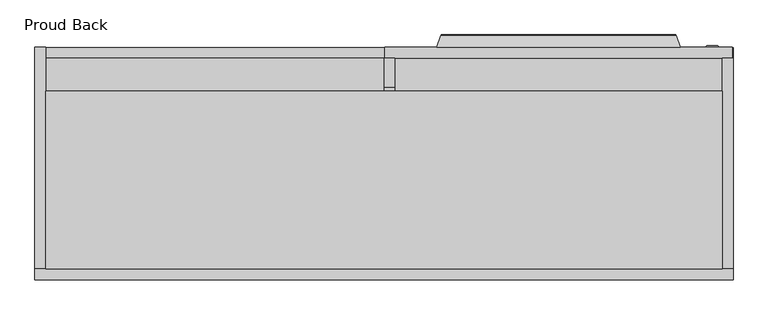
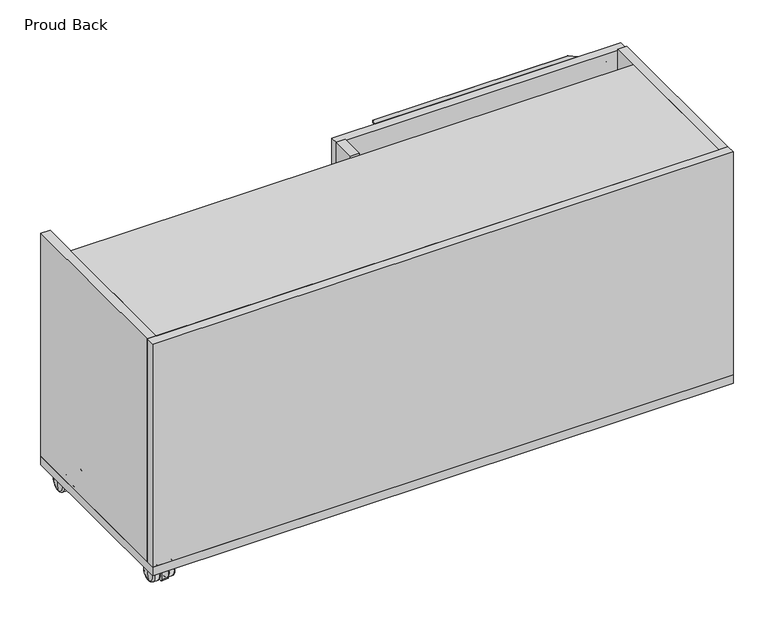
"""IFC4 building model written with IfcOpenShell, lengths in millimetres: furniture geometry, Haworth_BeHold_Modular_MobileCredenza : Proud Back."""

from ifc_helpers import new_model, si_unit, point, frame, frame_2d, origin, place, context, project, spatial, polyline, circle_curve, ellipse_curve, trimmed, segment, composite_curve, outline, extrude, source, transform, mapped, element, save
from ifc_brep_helpers import plane_surface, cylinder_surface, revolved_surface, advanced_brep


def proud_back_a2f7bcec(model_context):
    return source(origin(), model_context, "Body", "SolidModel", [
        advanced_brep(
        [(-750.3713166, 461.8252991, 2.8741812), (-751.97128, 461.8252991, 18.500001), (-750.3713166, 461.8252991, 34.1258208), (-746.8682448, 461.8252991, 1.5e-06), (-746.8682448, 461.8252991, 37.0000005), (-736.6629121, 461.8252991, 1.5e-06), (-736.6629121, 461.8252991, 37.0000005), (-735.4722871, 461.8252991, 1.1906265), (-735.4722871, 461.8252991, 35.8093755), (-735.4722871, 461.8252991, 11.3500014), (-735.4722871, 461.8252991, 25.6500006), (-731.9725007, 461.8252991, 11.3500014), (-731.9725007, 461.8252991, 25.6500006), (-731.9725007, 461.8252991, 13.0457396), (-731.9725007, 461.8252991, 23.9542625), (-721.5719727, 461.8252991, 13.0457396), (-721.5719727, 461.8252991, 23.9542625), (-721.5719727, 461.8252991, 11.3500014), (-721.5719727, 461.8252991, 25.6500006), (-718.0721863, 461.8252991, 11.3500014), (-718.0721863, 461.8252991, 25.6500006), (-718.0721863, 461.8252991, 1.1906265), (-718.0721863, 461.8252991, 35.8093755), (-716.8815613, 461.8252991, 1.5e-06), (-716.8815613, 461.8252991, 37.0000005), (-706.6951696, 461.8252991, 1.5e-06), (-706.6951696, 461.8252991, 37.0000005), (-703.167893, 461.8252991, 2.894786), (-703.167893, 461.8252991, 34.105216), (-701.5720307, 461.8252991, 18.500001)],
        [
            (0, 1, circle_curve(frame((-668.791693, 461.8252991, 19.1221269), z_axis=(0.0, 1.0, 0.0), x_axis=(-1.0, 0.0, 0.0)), 83.1819135)),
            (1, 2, circle_curve(frame((-668.791693, 461.8252991, 17.8778751), z_axis=(0.0, 1.0, 0.0), x_axis=(-1.0, 0.0, 0.0)), 83.1819135)),
            (2, 0, circle_curve(frame((-750.3713166, 461.8252991, 18.500001), z_axis=(-1.0, 0.0, 0.0), x_axis=(0.0, 0.0, 1.0)), 15.6258198)),
            (0, 2, circle_curve(frame((-750.3713166, 461.8252991, 18.500001), z_axis=(-1.0, 0.0, 0.0), x_axis=(0.0, 0.0, 1.0)), 15.6258198)),
            (3, 0, circle_curve(frame((-746.8682448, 461.8252991, 3.5718765), z_axis=(0.0, 1.0, 0.0), x_axis=(1.0, 0.0, 0.0)), 3.571875)),
            (2, 4, circle_curve(frame((-746.8682448, 461.8252991, 33.4281255), z_axis=(0.0, 1.0, 0.0), x_axis=(1.0, 0.0, 0.0)), 3.571875)),
            (4, 3, circle_curve(frame((-746.8682448, 461.8252991, 18.500001), z_axis=(-1.0, 0.0, 0.0), x_axis=(0.0, 0.0, 1.0)), 18.4999995)),
            (3, 4, circle_curve(frame((-746.8682448, 461.8252991, 18.500001), z_axis=(-1.0, 0.0, 0.0), x_axis=(0.0, 0.0, 1.0)), 18.4999995)),
            (5, 3),
            (4, 6),
            (6, 5, circle_curve(frame((-736.6629121, 461.8252991, 18.500001), z_axis=(-1.0, 0.0, 0.0), x_axis=(0.0, 0.0, 1.0)), 18.4999995)),
            (5, 6, circle_curve(frame((-736.6629121, 461.8252991, 18.500001), z_axis=(-1.0, 0.0, 0.0), x_axis=(0.0, 0.0, 1.0)), 18.4999995)),
            (7, 5, circle_curve(frame((-736.6629121, 461.8252991, 1.1906265), z_axis=(0.0, 1.0, 0.0), x_axis=(1.0, 0.0, 0.0)), 1.190625)),
            (6, 8, circle_curve(frame((-736.6629121, 461.8252991, 35.8093755), z_axis=(0.0, 1.0, 0.0), x_axis=(1.0, 0.0, 0.0)), 1.190625)),
            (8, 7, circle_curve(frame((-735.4722871, 461.8252991, 18.500001), z_axis=(-1.0, 0.0, 0.0), x_axis=(0.0, 0.0, 1.0)), 17.3093745)),
            (7, 8, circle_curve(frame((-735.4722871, 461.8252991, 18.500001), z_axis=(-1.0, 0.0, 0.0), x_axis=(0.0, 0.0, 1.0)), 17.3093745)),
            (9, 7),
            (8, 10),
            (10, 9, circle_curve(frame((-735.4722871, 461.8252991, 18.500001), z_axis=(-1.0, 0.0, 0.0), x_axis=(0.0, 0.0, 1.0)), 7.1499996)),
            (9, 10, circle_curve(frame((-735.4722871, 461.8252991, 18.500001), z_axis=(-1.0, 0.0, 0.0), x_axis=(0.0, 0.0, 1.0)), 7.1499996)),
            (11, 9),
            (10, 12),
            (12, 11, circle_curve(frame((-731.9725007, 461.8252991, 18.500001), z_axis=(-1.0, 0.0, 0.0), x_axis=(0.0, 0.0, 1.0)), 7.1499996)),
            (11, 12, circle_curve(frame((-731.9725007, 461.8252991, 18.500001), z_axis=(-1.0, 0.0, 0.0), x_axis=(0.0, 0.0, 1.0)), 7.1499996)),
            (13, 11),
            (12, 14),
            (14, 13, circle_curve(frame((-731.9725007, 461.8252991, 18.500001), z_axis=(-1.0, 0.0, 0.0), x_axis=(0.0, 0.0, 1.0)), 5.4542615)),
            (13, 14, circle_curve(frame((-731.9725007, 461.8252991, 18.500001), z_axis=(-1.0, 0.0, 0.0), x_axis=(0.0, 0.0, 1.0)), 5.4542615)),
            (15, 13),
            (14, 16),
            (16, 15, circle_curve(frame((-721.5719727, 461.8252991, 18.500001), z_axis=(-1.0, 0.0, 0.0), x_axis=(0.0, 0.0, 1.0)), 5.4542615)),
            (15, 16, circle_curve(frame((-721.5719727, 461.8252991, 18.500001), z_axis=(-1.0, 0.0, 0.0), x_axis=(0.0, 0.0, 1.0)), 5.4542615)),
            (17, 15),
            (16, 18),
            (18, 17, circle_curve(frame((-721.5719727, 461.8252991, 18.500001), z_axis=(-1.0, 0.0, 0.0), x_axis=(0.0, 0.0, 1.0)), 7.1499996)),
            (17, 18, circle_curve(frame((-721.5719727, 461.8252991, 18.500001), z_axis=(-1.0, 0.0, 0.0), x_axis=(0.0, 0.0, 1.0)), 7.1499996)),
            (19, 17),
            (18, 20),
            (20, 19, circle_curve(frame((-718.0721863, 461.8252991, 18.500001), z_axis=(-1.0, 0.0, 0.0), x_axis=(0.0, 0.0, 1.0)), 7.1499996)),
            (19, 20, circle_curve(frame((-718.0721863, 461.8252991, 18.500001), z_axis=(-1.0, 0.0, 0.0), x_axis=(0.0, 0.0, 1.0)), 7.1499996)),
            (21, 19),
            (20, 22),
            (22, 21, circle_curve(frame((-718.0721863, 461.8252991, 18.500001), z_axis=(-1.0, 0.0, 0.0), x_axis=(0.0, 0.0, 1.0)), 17.3093745)),
            (21, 22, circle_curve(frame((-718.0721863, 461.8252991, 18.500001), z_axis=(-1.0, 0.0, 0.0), x_axis=(0.0, 0.0, 1.0)), 17.3093745)),
            (23, 21, circle_curve(frame((-716.8815613, 461.8252991, 1.1906265), z_axis=(0.0, 1.0, 0.0), x_axis=(1.0, 0.0, 0.0)), 1.190625)),
            (22, 24, circle_curve(frame((-716.8815613, 461.8252991, 35.8093755), z_axis=(0.0, 1.0, 0.0), x_axis=(1.0, 0.0, 0.0)), 1.190625)),
            (24, 23, circle_curve(frame((-716.8815613, 461.8252991, 18.500001), z_axis=(-1.0, 0.0, 0.0), x_axis=(0.0, 0.0, 1.0)), 18.4999995)),
            (23, 24, circle_curve(frame((-716.8815613, 461.8252991, 18.500001), z_axis=(-1.0, 0.0, 0.0), x_axis=(0.0, 0.0, 1.0)), 18.4999995)),
            (25, 23),
            (24, 26),
            (26, 25, circle_curve(frame((-706.6951696, 461.8252991, 18.500001), z_axis=(-1.0, 0.0, 0.0), x_axis=(0.0, 0.0, 1.0)), 18.4999995)),
            (25, 26, circle_curve(frame((-706.6951696, 461.8252991, 18.500001), z_axis=(-1.0, 0.0, 0.0), x_axis=(0.0, 0.0, 1.0)), 18.4999995)),
            (27, 25, circle_curve(frame((-706.6951696, 461.8252991, 3.5963759), z_axis=(0.0, 1.0, 0.0), x_axis=(1.0, 0.0, 0.0)), 3.5963744)),
            (26, 28, circle_curve(frame((-706.6951696, 461.8252991, 33.4036261), z_axis=(0.0, 1.0, 0.0), x_axis=(1.0, 0.0, 0.0)), 3.5963744)),
            (28, 27, circle_curve(frame((-703.167893, 461.8252991, 18.500001), z_axis=(-1.0, 0.0, 0.0), x_axis=(0.0, 0.0, 1.0)), 15.605215)),
            (27, 28, circle_curve(frame((-703.167893, 461.8252991, 18.500001), z_axis=(-1.0, 0.0, 0.0), x_axis=(0.0, 0.0, 1.0)), 15.605215)),
            (29, 27, circle_curve(frame((-784.7516177, 461.8252991, 19.1221269), z_axis=(0.0, 1.0, 0.0), x_axis=(1.0, 0.0, 0.0)), 83.1819135)),
            (28, 29, circle_curve(frame((-784.7516177, 461.8252991, 17.8778751), z_axis=(0.0, 1.0, 0.0), x_axis=(1.0, 0.0, 0.0)), 83.1819135)),
        ],
        [
            revolved_surface(trimmed(ellipse_curve(frame((-668.791693, 461.8252991, 17.8778751), z_axis=(0.0, 1.0, 0.0), x_axis=(-1.0, 0.0, 0.0)), 83.1819135, 83.1819135), [point((-751.97128, 461.8252991, 18.500001))], [point((-750.3713166, 461.8252991, 34.1258208))], True, "CARTESIAN"), (-775.2830707, 461.8252991, 18.500001), (1.0, 0.0, 0.0)),
            revolved_surface(trimmed(ellipse_curve(frame((-746.8682448, 461.8252991, 33.4281255), z_axis=(0.0, 1.0, 0.0), x_axis=(1.0, 0.0, 0.0)), 3.571875, 3.571875), [point((-750.3713166, 461.8252991, 34.1258208))], [point((-746.8682448, 461.8252991, 37.0000005))], True, "CARTESIAN"), (-775.2830707, 461.8252991, 18.500001), (1.0, 0.0, 0.0)),
            cylinder_surface(frame((-775.2830707, 461.8252991, 18.500001), z_axis=(1.0, 0.0, 0.0), x_axis=(0.0, 0.0, 1.0)), 18.4999995),
            revolved_surface(trimmed(ellipse_curve(frame((-736.6629121, 461.8252991, 35.8093755), z_axis=(0.0, 1.0, 0.0), x_axis=(1.0, 0.0, 0.0)), 1.190625, 1.190625), [point((-736.6629121, 461.8252991, 37.0000005))], [point((-735.4722871, 461.8252991, 35.8093755))], True, "CARTESIAN"), (-775.2830707, 461.8252991, 18.500001), (1.0, 0.0, 0.0)),
            plane_surface(frame((-735.4722871, 461.8252991, 18.500001), z_axis=(1.0, 0.0, 0.0), x_axis=(0.0, 0.0, 1.0))),
            cylinder_surface(frame((-775.2830707, 461.8252991, 18.500001), z_axis=(1.0, 0.0, 0.0), x_axis=(0.0, 0.0, 1.0)), 7.1499996),
            plane_surface(frame((-731.9725007, 461.8252991, 18.500001), z_axis=(1.0, 0.0, 0.0), x_axis=(0.0, 0.0, 1.0))),
            cylinder_surface(frame((-775.2830707, 461.8252991, 18.500001), z_axis=(1.0, 0.0, 0.0), x_axis=(0.0, 0.0, 1.0)), 5.4542615),
            plane_surface(frame((-721.5719727, 461.8252991, 18.500001), z_axis=(-1.0, 0.0, 0.0), x_axis=(0.0, 0.0, 1.0))),
            plane_surface(frame((-718.0721863, 461.8252991, 18.500001), z_axis=(-1.0, 0.0, 0.0), x_axis=(0.0, 0.0, 1.0))),
            revolved_surface(trimmed(ellipse_curve(frame((-716.8815613, 461.8252991, 35.8093755), z_axis=(0.0, 1.0, 0.0), x_axis=(1.0, 0.0, 0.0)), 1.190625, 1.190625), [point((-718.0721863, 461.8252991, 35.8093755))], [point((-716.8815613, 461.8252991, 37.0000005))], True, "CARTESIAN"), (-775.2830707, 461.8252991, 18.500001), (1.0, 0.0, 0.0)),
            revolved_surface(trimmed(ellipse_curve(frame((-706.6951696, 461.8252991, 33.4036261), z_axis=(0.0, 1.0, 0.0), x_axis=(1.0, 0.0, 0.0)), 3.5963744, 3.5963744), [point((-706.6951696, 461.8252991, 37.0000005))], [point((-703.167893, 461.8252991, 34.105216))], True, "CARTESIAN"), (-775.2830707, 461.8252991, 18.500001), (1.0, 0.0, 0.0)),
            revolved_surface(trimmed(ellipse_curve(frame((-784.7516177, 461.8252991, 17.8778751), z_axis=(0.0, 1.0, 0.0), x_axis=(1.0, 0.0, 0.0)), 83.1819135, 83.1819135), [point((-703.167893, 461.8252991, 34.105216))], [point((-701.5720307, 461.8252991, 18.500001))], True, "CARTESIAN"), (-775.2830707, 461.8252991, 18.500001), (1.0, 0.0, 0.0)),
        ],
        [
            (0, [[1, 2, 3]]),
            (0, [[-2, -1, 4]]),
            (1, [[5, -3, 6, 7]]),
            (1, [[-6, -4, -5, 8]]),
            (2, [[9, -7, 10, 11]]),
            (2, [[-10, -8, -9, 12]]),
            (3, [[13, -11, 14, 15]]),
            (3, [[-14, -12, -13, 16]]),
            (4, [[17, -15, 18, 19]]),
            (4, [[-18, -16, -17, 20]]),
            (5, [[21, -19, 22, 23]]),
            (5, [[-22, -20, -21, 24]]),
            (6, [[25, -23, 26, 27]]),
            (6, [[-26, -24, -25, 28]]),
            (7, [[29, -27, 30, 31]]),
            (7, [[-30, -28, -29, 32]]),
            (8, [[33, -31, 34, 35]]),
            (8, [[-34, -32, -33, 36]]),
            (5, [[37, -35, 38, 39]]),
            (5, [[-38, -36, -37, 40]]),
            (9, [[41, -39, 42, 43]]),
            (9, [[-42, -40, -41, 44]]),
            (10, [[45, -43, 46, 47]]),
            (10, [[-46, -44, -45, 48]]),
            (2, [[49, -47, 50, 51]]),
            (2, [[-50, -48, -49, 52]]),
            (11, [[53, -51, 54, 55]]),
            (11, [[-54, -52, -53, 56]]),
            (12, [[57, -55, 58]]),
            (12, [[-58, -56, -57]]),
        ],
    ),
        extrude(outline(composite_curve([segment(polyline([(-706.828299, 103.8134308), (-746.7161744, 103.8134308)]), True, "CONTINUOUS"), segment(trimmed(circle_curve(frame_2d((-746.7161744, 109.3696808)), 5.55625), [point((-746.7161744, 103.8134308))], [point((-752.2724244, 109.3696808))], False, "CARTESIAN"), True, "CONTINUOUS"), segment(polyline([(-752.2724244, 109.3696808), (-752.2724244, 128.7564819)]), True, "CONTINUOUS"), segment(trimmed(circle_curve(frame_2d((-746.7161744, 128.7564819)), 5.55625), [point((-752.2724244, 128.7564819))], [point((-746.7161744, 134.3127319))], False, "CARTESIAN"), True, "CONTINUOUS"), segment(polyline([(-746.7161744, 134.3127319), (-706.8708092, 134.3127319)]), True, "CONTINUOUS"), segment(trimmed(circle_curve(frame_2d((-706.8708092, 128.7139717)), 5.5987602), [point((-706.8708092, 134.3127319))], [point((-701.272049, 128.7139717))], False, "CARTESIAN"), True, "CONTINUOUS"), segment(polyline([(-701.272049, 128.7139717), (-701.272049, 109.3696808)]), True, "CONTINUOUS"), segment(trimmed(circle_curve(frame_2d((-706.828299, 109.3696808)), 5.55625), [point((-701.272049, 109.3696808))], [point((-706.828299, 103.8134308))], False, "CARTESIAN"), True, "CONTINUOUS")], self_intersect=False)), frame((0.0, 0.0, 41.1500016), z_axis=(0.0, 0.0, 1.0), x_axis=(1.0, 0.0, 0.0)), (0.0, 0.0, 1.0), 3.2999984),
        extrude(outline(composite_curve([segment(polyline([(112.2361725, 10.0187513), (112.2361725, 32.8500017), (127.1631683, 32.8500017), (127.1631683, 36.8500006), (133.2127991, 36.8500006)]), True, "CONTINUOUS"), segment(trimmed(circle_curve(frame_2d((133.2127991, 18.5003868)), 18.3496138), [point((133.2127991, 36.8500006))], [point((146.9906667, 30.6197387))], False, "CARTESIAN"), True, "CONTINUOUS"), segment(trimmed(circle_curve(frame_2d((145.6233868, 29.4170456)), 1.8209681), [point((146.9906667, 30.6197387))], [point((147.4391605, 29.5544899))], False, "CARTESIAN"), True, "CONTINUOUS"), segment(polyline([(147.4391605, 29.5544899), (147.745118, 25.5124927)]), True, "CONTINUOUS"), segment(trimmed(circle_curve(frame_2d((106.5147413, 22.3915745)), 41.3483263), [point((147.745118, 25.5124927))], [point((147.8630676, 22.3915745))], False, "CARTESIAN"), True, "CONTINUOUS"), segment(polyline([(147.8630676, 22.3915745), (147.8630676, 6.0500013), (116.2049225, 6.0500013)]), True, "CONTINUOUS"), segment(trimmed(circle_curve(frame_2d((116.2049225, 10.0187513)), 3.96875), [point((116.2049225, 6.0500013))], [point((112.2361725, 10.0187513))], False, "CARTESIAN"), True, "CONTINUOUS")], self_intersect=False)), frame((-733.7712281, 0.0, 0.0), z_axis=(1.0, 0.0, 0.0), x_axis=(0.0, 1.0, 0.0)), (0.0, 0.0, 1.0), 13.9991455),
        advanced_brep(
        [(-731.4457886, 119.0625, 32.8500017), (-726.7716553, 119.0625, 32.8500017), (-722.097522, 119.0625, 32.8500017), (-731.4457886, 119.0625, 34.6500009), (-722.097522, 119.0625, 34.6500009), (-732.995694, 119.0625, 34.6500009), (-720.5476166, 119.0625, 34.6500009), (-733.842154, 119.0625, 38.6499997), (-719.7011567, 119.0625, 38.6499997), (-731.2713807, 119.0625, 38.6499997), (-722.27193, 119.0625, 38.6499997), (-737.770984, 119.0625, 41.1500016), (-715.7723267, 119.0625, 41.1500016), (-726.7716553, 119.0625, 41.1500016)],
        [
            (0, 1),
            (1, 2),
            (2, 0, circle_curve(frame((-726.7716553, 119.0625, 32.8500017), z_axis=(0.0, 0.0, -1.0), x_axis=(1.0, 0.0, 0.0)), 4.6741333)),
            (0, 2, circle_curve(frame((-726.7716553, 119.0625, 32.8500017), z_axis=(0.0, 0.0, -1.0), x_axis=(1.0, 0.0, 0.0)), 4.6741333)),
            (3, 0),
            (2, 4),
            (4, 3, circle_curve(frame((-726.7716553, 119.0625, 34.6500009), z_axis=(0.0, 0.0, -1.0), x_axis=(1.0, 0.0, 0.0)), 4.6741333)),
            (3, 4, circle_curve(frame((-726.7716553, 119.0625, 34.6500009), z_axis=(0.0, 0.0, -1.0), x_axis=(1.0, 0.0, 0.0)), 4.6741333)),
            (5, 3),
            (4, 6),
            (6, 5, circle_curve(frame((-726.7716553, 119.0625, 34.6500009), z_axis=(0.0, 0.0, -1.0), x_axis=(1.0, 0.0, 0.0)), 6.2240387)),
            (5, 6, circle_curve(frame((-726.7716553, 119.0625, 34.6500009), z_axis=(0.0, 0.0, -1.0), x_axis=(1.0, 0.0, 0.0)), 6.2240387)),
            (7, 5, circle_curve(frame((-731.2733011, 119.0625, 37.1040464), z_axis=(0.0, -1.0, 0.0), x_axis=(-1.0, 0.0, 0.0)), 2.9981622)),
            (6, 8, circle_curve(frame((-722.2700095, 119.0625, 37.1040464), z_axis=(0.0, -1.0, 0.0), x_axis=(1.0, 0.0, 0.0)), 2.9981622)),
            (8, 7, circle_curve(frame((-726.7716553, 119.0625, 38.6499997), z_axis=(0.0, 0.0, -1.0), x_axis=(1.0, 0.0, 0.0)), 7.0704987)),
            (7, 8, circle_curve(frame((-726.7716553, 119.0625, 38.6499997), z_axis=(0.0, 0.0, -1.0), x_axis=(1.0, 0.0, 0.0)), 7.0704987)),
            (9, 7),
            (8, 10),
            (10, 9, circle_curve(frame((-726.7716553, 119.0625, 38.6499997), z_axis=(0.0, 0.0, -1.0), x_axis=(1.0, 0.0, 0.0)), 4.4997253)),
            (9, 10, circle_curve(frame((-726.7716553, 119.0625, 38.6499997), z_axis=(0.0, 0.0, -1.0), x_axis=(1.0, 0.0, 0.0)), 4.4997253)),
            (11, 9),
            (10, 12),
            (12, 11, circle_curve(frame((-726.7716553, 119.0625, 41.1500016), z_axis=(0.0, 0.0, -1.0), x_axis=(1.0, 0.0, 0.0)), 10.9993286)),
            (11, 12, circle_curve(frame((-726.7716553, 119.0625, 41.1500016), z_axis=(0.0, 0.0, -1.0), x_axis=(1.0, 0.0, 0.0)), 10.9993286)),
            (13, 11),
            (12, 13),
        ],
        [
            plane_surface(frame((-726.7716553, 119.0625, 32.8500017), z_axis=(0.0, 0.0, -1.0), x_axis=(1.0, 0.0, 0.0))),
            cylinder_surface(frame((-726.7716553, 119.0625, 53.2629664), z_axis=(0.0, 0.0, 1.0), x_axis=(1.0, 0.0, 0.0)), 4.6741333),
            plane_surface(frame((-726.7716553, 119.0625, 34.6500009), z_axis=(0.0, 0.0, -1.0), x_axis=(1.0, 0.0, 0.0))),
            revolved_surface(trimmed(ellipse_curve(frame((-722.2700095, 119.0625, 37.1040464), z_axis=(0.0, -1.0, 0.0), x_axis=(1.0, 0.0, 0.0)), 2.9981622, 2.9981622), [point((-720.5476166, 119.0625, 34.6500009))], [point((-719.7011567, 119.0625, 38.6499997))], True, "CARTESIAN"), (-726.7716553, 119.0625, 53.2629664), (0.0, 0.0, 1.0)),
            plane_surface(frame((-726.7716553, 119.0625, 38.6499997), z_axis=(0.0, 0.0, 1.0), x_axis=(1.0, 0.0, 0.0))),
            revolved_surface(polyline([(-722.27193, 119.0625, 38.6499997), (-715.7723267, 119.0625, 41.1500016)]), (-726.7716553, 119.0625, 53.2629664), (0.0, 0.0, 1.0)),
            plane_surface(frame((-726.7716553, 119.0625, 41.1500016), z_axis=(0.0, 0.0, 1.0), x_axis=(1.0, 0.0, 0.0))),
        ],
        [
            (0, [[1, 2, 3]]),
            (0, [[-2, -1, 4]]),
            (1, [[5, -3, 6, 7]]),
            (1, [[-6, -4, -5, 8]]),
            (2, [[9, -7, 10, 11]]),
            (2, [[-10, -8, -9, 12]]),
            (3, [[13, -11, 14, 15]]),
            (3, [[-14, -12, -13, 16]]),
            (4, [[17, -15, 18, 19]]),
            (4, [[-18, -16, -17, 20]]),
            (5, [[21, -19, 22, 23]]),
            (5, [[-22, -20, -21, 24]]),
            (6, [[25, -23, 26]]),
            (6, [[-26, -24, -25]]),
        ],
    ),
        advanced_brep(
        [(-750.3713166, 133.2127991, 2.8741812), (-751.97128, 133.2127991, 18.500001), (-750.3713166, 133.2127991, 34.1258208), (-746.8682448, 133.2127991, 1.5e-06), (-746.8682448, 133.2127991, 37.0000005), (-736.6629121, 133.2127991, 1.5e-06), (-736.6629121, 133.2127991, 37.0000005), (-735.4722871, 133.2127991, 1.1906265), (-735.4722871, 133.2127991, 35.8093755), (-735.4722871, 133.2127991, 11.3500014), (-735.4722871, 133.2127991, 25.6500006), (-731.9725007, 133.2127991, 11.3500014), (-731.9725007, 133.2127991, 25.6500006), (-731.9725007, 133.2127991, 13.0457396), (-731.9725007, 133.2127991, 23.9542625), (-721.5719727, 133.2127991, 13.0457396), (-721.5719727, 133.2127991, 23.9542625), (-721.5719727, 133.2127991, 11.3500014), (-721.5719727, 133.2127991, 25.6500006), (-718.0721863, 133.2127991, 11.3500014), (-718.0721863, 133.2127991, 25.6500006), (-718.0721863, 133.2127991, 1.1906265), (-718.0721863, 133.2127991, 35.8093755), (-716.8815613, 133.2127991, 1.5e-06), (-716.8815613, 133.2127991, 37.0000005), (-706.6951696, 133.2127991, 1.5e-06), (-706.6951696, 133.2127991, 37.0000005), (-703.167893, 133.2127991, 2.894786), (-703.167893, 133.2127991, 34.105216), (-701.5720307, 133.2127991, 18.500001)],
        [
            (0, 1, circle_curve(frame((-668.791693, 133.2127991, 19.1221269), z_axis=(0.0, 1.0, 0.0), x_axis=(-1.0, 0.0, 0.0)), 83.1819135)),
            (1, 2, circle_curve(frame((-668.791693, 133.2127991, 17.8778751), z_axis=(0.0, 1.0, 0.0), x_axis=(-1.0, 0.0, 0.0)), 83.1819135)),
            (2, 0, circle_curve(frame((-750.3713166, 133.2127991, 18.500001), z_axis=(-1.0, 0.0, 0.0), x_axis=(0.0, 0.0, 1.0)), 15.6258198)),
            (0, 2, circle_curve(frame((-750.3713166, 133.2127991, 18.500001), z_axis=(-1.0, 0.0, 0.0), x_axis=(0.0, 0.0, 1.0)), 15.6258198)),
            (3, 0, circle_curve(frame((-746.8682448, 133.2127991, 3.5718765), z_axis=(0.0, 1.0, 0.0), x_axis=(1.0, 0.0, 0.0)), 3.571875)),
            (2, 4, circle_curve(frame((-746.8682448, 133.2127991, 33.4281255), z_axis=(0.0, 1.0, 0.0), x_axis=(1.0, 0.0, 0.0)), 3.571875)),
            (4, 3, circle_curve(frame((-746.8682448, 133.2127991, 18.500001), z_axis=(-1.0, 0.0, 0.0), x_axis=(0.0, 0.0, 1.0)), 18.4999995)),
            (3, 4, circle_curve(frame((-746.8682448, 133.2127991, 18.500001), z_axis=(-1.0, 0.0, 0.0), x_axis=(0.0, 0.0, 1.0)), 18.4999995)),
            (5, 3),
            (4, 6),
            (6, 5, circle_curve(frame((-736.6629121, 133.2127991, 18.500001), z_axis=(-1.0, 0.0, 0.0), x_axis=(0.0, 0.0, 1.0)), 18.4999995)),
            (5, 6, circle_curve(frame((-736.6629121, 133.2127991, 18.500001), z_axis=(-1.0, 0.0, 0.0), x_axis=(0.0, 0.0, 1.0)), 18.4999995)),
            (7, 5, circle_curve(frame((-736.6629121, 133.2127991, 1.1906265), z_axis=(0.0, 1.0, 0.0), x_axis=(1.0, 0.0, 0.0)), 1.190625)),
            (6, 8, circle_curve(frame((-736.6629121, 133.2127991, 35.8093755), z_axis=(0.0, 1.0, 0.0), x_axis=(1.0, 0.0, 0.0)), 1.190625)),
            (8, 7, circle_curve(frame((-735.4722871, 133.2127991, 18.500001), z_axis=(-1.0, 0.0, 0.0), x_axis=(0.0, 0.0, 1.0)), 17.3093745)),
            (7, 8, circle_curve(frame((-735.4722871, 133.2127991, 18.500001), z_axis=(-1.0, 0.0, 0.0), x_axis=(0.0, 0.0, 1.0)), 17.3093745)),
            (9, 7),
            (8, 10),
            (10, 9, circle_curve(frame((-735.4722871, 133.2127991, 18.500001), z_axis=(-1.0, 0.0, 0.0), x_axis=(0.0, 0.0, 1.0)), 7.1499996)),
            (9, 10, circle_curve(frame((-735.4722871, 133.2127991, 18.500001), z_axis=(-1.0, 0.0, 0.0), x_axis=(0.0, 0.0, 1.0)), 7.1499996)),
            (11, 9),
            (10, 12),
            (12, 11, circle_curve(frame((-731.9725007, 133.2127991, 18.500001), z_axis=(-1.0, 0.0, 0.0), x_axis=(0.0, 0.0, 1.0)), 7.1499996)),
            (11, 12, circle_curve(frame((-731.9725007, 133.2127991, 18.500001), z_axis=(-1.0, 0.0, 0.0), x_axis=(0.0, 0.0, 1.0)), 7.1499996)),
            (13, 11),
            (12, 14),
            (14, 13, circle_curve(frame((-731.9725007, 133.2127991, 18.500001), z_axis=(-1.0, 0.0, 0.0), x_axis=(0.0, 0.0, 1.0)), 5.4542615)),
            (13, 14, circle_curve(frame((-731.9725007, 133.2127991, 18.500001), z_axis=(-1.0, 0.0, 0.0), x_axis=(0.0, 0.0, 1.0)), 5.4542615)),
            (15, 13),
            (14, 16),
            (16, 15, circle_curve(frame((-721.5719727, 133.2127991, 18.500001), z_axis=(-1.0, 0.0, 0.0), x_axis=(0.0, 0.0, 1.0)), 5.4542615)),
            (15, 16, circle_curve(frame((-721.5719727, 133.2127991, 18.500001), z_axis=(-1.0, 0.0, 0.0), x_axis=(0.0, 0.0, 1.0)), 5.4542615)),
            (17, 15),
            (16, 18),
            (18, 17, circle_curve(frame((-721.5719727, 133.2127991, 18.500001), z_axis=(-1.0, 0.0, 0.0), x_axis=(0.0, 0.0, 1.0)), 7.1499996)),
            (17, 18, circle_curve(frame((-721.5719727, 133.2127991, 18.500001), z_axis=(-1.0, 0.0, 0.0), x_axis=(0.0, 0.0, 1.0)), 7.1499996)),
            (19, 17),
            (18, 20),
            (20, 19, circle_curve(frame((-718.0721863, 133.2127991, 18.500001), z_axis=(-1.0, 0.0, 0.0), x_axis=(0.0, 0.0, 1.0)), 7.1499996)),
            (19, 20, circle_curve(frame((-718.0721863, 133.2127991, 18.500001), z_axis=(-1.0, 0.0, 0.0), x_axis=(0.0, 0.0, 1.0)), 7.1499996)),
            (21, 19),
            (20, 22),
            (22, 21, circle_curve(frame((-718.0721863, 133.2127991, 18.500001), z_axis=(-1.0, 0.0, 0.0), x_axis=(0.0, 0.0, 1.0)), 17.3093745)),
            (21, 22, circle_curve(frame((-718.0721863, 133.2127991, 18.500001), z_axis=(-1.0, 0.0, 0.0), x_axis=(0.0, 0.0, 1.0)), 17.3093745)),
            (23, 21, circle_curve(frame((-716.8815613, 133.2127991, 1.1906265), z_axis=(0.0, 1.0, 0.0), x_axis=(1.0, 0.0, 0.0)), 1.190625)),
            (22, 24, circle_curve(frame((-716.8815613, 133.2127991, 35.8093755), z_axis=(0.0, 1.0, 0.0), x_axis=(1.0, 0.0, 0.0)), 1.190625)),
            (24, 23, circle_curve(frame((-716.8815613, 133.2127991, 18.500001), z_axis=(-1.0, 0.0, 0.0), x_axis=(0.0, 0.0, 1.0)), 18.4999995)),
            (23, 24, circle_curve(frame((-716.8815613, 133.2127991, 18.500001), z_axis=(-1.0, 0.0, 0.0), x_axis=(0.0, 0.0, 1.0)), 18.4999995)),
            (25, 23),
            (24, 26),
            (26, 25, circle_curve(frame((-706.6951696, 133.2127991, 18.500001), z_axis=(-1.0, 0.0, 0.0), x_axis=(0.0, 0.0, 1.0)), 18.4999995)),
            (25, 26, circle_curve(frame((-706.6951696, 133.2127991, 18.500001), z_axis=(-1.0, 0.0, 0.0), x_axis=(0.0, 0.0, 1.0)), 18.4999995)),
            (27, 25, circle_curve(frame((-706.6951696, 133.2127991, 3.5963759), z_axis=(0.0, 1.0, 0.0), x_axis=(1.0, 0.0, 0.0)), 3.5963744)),
            (26, 28, circle_curve(frame((-706.6951696, 133.2127991, 33.4036261), z_axis=(0.0, 1.0, 0.0), x_axis=(1.0, 0.0, 0.0)), 3.5963744)),
            (28, 27, circle_curve(frame((-703.167893, 133.2127991, 18.500001), z_axis=(-1.0, 0.0, 0.0), x_axis=(0.0, 0.0, 1.0)), 15.605215)),
            (27, 28, circle_curve(frame((-703.167893, 133.2127991, 18.500001), z_axis=(-1.0, 0.0, 0.0), x_axis=(0.0, 0.0, 1.0)), 15.605215)),
            (29, 27, circle_curve(frame((-784.7516177, 133.2127991, 19.1221269), z_axis=(0.0, 1.0, 0.0), x_axis=(1.0, 0.0, 0.0)), 83.1819135)),
            (28, 29, circle_curve(frame((-784.7516177, 133.2127991, 17.8778751), z_axis=(0.0, 1.0, 0.0), x_axis=(1.0, 0.0, 0.0)), 83.1819135)),
        ],
        [
            revolved_surface(trimmed(ellipse_curve(frame((-668.791693, 133.2127991, 17.8778751), z_axis=(0.0, 1.0, 0.0), x_axis=(-1.0, 0.0, 0.0)), 83.1819135, 83.1819135), [point((-751.97128, 133.2127991, 18.500001))], [point((-750.3713166, 133.2127991, 34.1258208))], True, "CARTESIAN"), (-775.2830707, 133.2127991, 18.500001), (1.0, 0.0, 0.0)),
            revolved_surface(trimmed(ellipse_curve(frame((-746.8682448, 133.2127991, 33.4281255), z_axis=(0.0, 1.0, 0.0), x_axis=(1.0, 0.0, 0.0)), 3.571875, 3.571875), [point((-750.3713166, 133.2127991, 34.1258208))], [point((-746.8682448, 133.2127991, 37.0000005))], True, "CARTESIAN"), (-775.2830707, 133.2127991, 18.500001), (1.0, 0.0, 0.0)),
            cylinder_surface(frame((-775.2830707, 133.2127991, 18.500001), z_axis=(1.0, 0.0, 0.0), x_axis=(0.0, 0.0, 1.0)), 18.4999995),
            revolved_surface(trimmed(ellipse_curve(frame((-736.6629121, 133.2127991, 35.8093755), z_axis=(0.0, 1.0, 0.0), x_axis=(1.0, 0.0, 0.0)), 1.190625, 1.190625), [point((-736.6629121, 133.2127991, 37.0000005))], [point((-735.4722871, 133.2127991, 35.8093755))], True, "CARTESIAN"), (-775.2830707, 133.2127991, 18.500001), (1.0, 0.0, 0.0)),
            plane_surface(frame((-735.4722871, 133.2127991, 18.500001), z_axis=(1.0, 0.0, 0.0), x_axis=(0.0, 0.0, 1.0))),
            cylinder_surface(frame((-775.2830707, 133.2127991, 18.500001), z_axis=(1.0, 0.0, 0.0), x_axis=(0.0, 0.0, 1.0)), 7.1499996),
            plane_surface(frame((-731.9725007, 133.2127991, 18.500001), z_axis=(1.0, 0.0, 0.0), x_axis=(0.0, 0.0, 1.0))),
            cylinder_surface(frame((-775.2830707, 133.2127991, 18.500001), z_axis=(1.0, 0.0, 0.0), x_axis=(0.0, 0.0, 1.0)), 5.4542615),
            plane_surface(frame((-721.5719727, 133.2127991, 18.500001), z_axis=(-1.0, 0.0, 0.0), x_axis=(0.0, 0.0, 1.0))),
            plane_surface(frame((-718.0721863, 133.2127991, 18.500001), z_axis=(-1.0, 0.0, 0.0), x_axis=(0.0, 0.0, 1.0))),
            revolved_surface(trimmed(ellipse_curve(frame((-716.8815613, 133.2127991, 35.8093755), z_axis=(0.0, 1.0, 0.0), x_axis=(1.0, 0.0, 0.0)), 1.190625, 1.190625), [point((-718.0721863, 133.2127991, 35.8093755))], [point((-716.8815613, 133.2127991, 37.0000005))], True, "CARTESIAN"), (-775.2830707, 133.2127991, 18.500001), (1.0, 0.0, 0.0)),
            revolved_surface(trimmed(ellipse_curve(frame((-706.6951696, 133.2127991, 33.4036261), z_axis=(0.0, 1.0, 0.0), x_axis=(1.0, 0.0, 0.0)), 3.5963744, 3.5963744), [point((-706.6951696, 133.2127991, 37.0000005))], [point((-703.167893, 133.2127991, 34.105216))], True, "CARTESIAN"), (-775.2830707, 133.2127991, 18.500001), (1.0, 0.0, 0.0)),
            revolved_surface(trimmed(ellipse_curve(frame((-784.7516177, 133.2127991, 17.8778751), z_axis=(0.0, 1.0, 0.0), x_axis=(1.0, 0.0, 0.0)), 83.1819135, 83.1819135), [point((-703.167893, 133.2127991, 34.105216))], [point((-701.5720307, 133.2127991, 18.500001))], True, "CARTESIAN"), (-775.2830707, 133.2127991, 18.500001), (1.0, 0.0, 0.0)),
        ],
        [
            (0, [[1, 2, 3]]),
            (0, [[-2, -1, 4]]),
            (1, [[5, -3, 6, 7]]),
            (1, [[-6, -4, -5, 8]]),
            (2, [[9, -7, 10, 11]]),
            (2, [[-10, -8, -9, 12]]),
            (3, [[13, -11, 14, 15]]),
            (3, [[-14, -12, -13, 16]]),
            (4, [[17, -15, 18, 19]]),
            (4, [[-18, -16, -17, 20]]),
            (5, [[21, -19, 22, 23]]),
            (5, [[-22, -20, -21, 24]]),
            (6, [[25, -23, 26, 27]]),
            (6, [[-26, -24, -25, 28]]),
            (7, [[29, -27, 30, 31]]),
            (7, [[-30, -28, -29, 32]]),
            (8, [[33, -31, 34, 35]]),
            (8, [[-34, -32, -33, 36]]),
            (5, [[37, -35, 38, 39]]),
            (5, [[-38, -36, -37, 40]]),
            (9, [[41, -39, 42, 43]]),
            (9, [[-42, -40, -41, 44]]),
            (10, [[45, -43, 46, 47]]),
            (10, [[-46, -44, -45, 48]]),
            (2, [[49, -47, 50, 51]]),
            (2, [[-50, -48, -49, 52]]),
            (11, [[53, -51, 54, 55]]),
            (11, [[-54, -52, -53, 56]]),
            (12, [[57, -55, 58]]),
            (12, [[-58, -56, -57]]),
        ],
    ),
        advanced_brep(
        [(-64.7841553, 495.3, 554.2279922), (-58.179208, 513.44585, 544.0887354), (354.0608973, 513.44585, 544.0887354), (360.6658447, 495.3, 554.2279922), (360.6658447, 495.3, 555.625), (-64.7841553, 495.3, 555.625), (353.3104778, 515.5074865, 548.7098982), (-57.4287884, 515.5074865, 548.7098982)],
        [
            (0, 1),
            (1, 2),
            (2, 3),
            (3, 0),
            (3, 4),
            (4, 5),
            (5, 0),
            (4, 6),
            (6, 7),
            (7, 5),
            (1, 7, ellipse_curve(frame((-57.7281707, 514.6849901, 546.3063783), z_axis=(0.9396859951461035, -0.34203834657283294, 0.0), x_axis=(0.3420383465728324, 0.9396859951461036, 0.0)), 2.7034093, 2.5403559)),
            (6, 2, ellipse_curve(frame((353.60986, 514.6849901, 546.3063783), z_axis=(-0.9396859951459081, -0.3420383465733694, 0.0), x_axis=(0.34203834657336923, -0.9396859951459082, 0.0)), 2.7034093, 2.5403559)),
        ],
        [
            plane_surface(frame((360.6658447, 513.44585, 544.0887354), z_axis=(0.0, -0.4877820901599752, -0.8729654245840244), x_axis=(-1.0, 0.0, 0.0))),
            plane_surface(frame((360.6658447, 495.3, 554.2279922), z_axis=(0.0, -1.0, 0.0), x_axis=(-1.0, 0.0, 0.0))),
            plane_surface(frame((360.6658447, 495.3, 555.625), z_axis=(0.0, 0.32377211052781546, 0.9461350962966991), x_axis=(-1.0, 0.0, 0.0))),
            cylinder_surface(frame((360.6658447, 514.6849901, 546.3063783), z_axis=(1.0, 0.0, 0.0), x_axis=(0.0, 1.0, 0.0)), 2.5403559),
            plane_surface(frame((-56.2128322, 518.8480975, 568.325), z_axis=(-0.9396859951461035, 0.34203834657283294, 0.0), x_axis=(0.0, 0.0, -1.0))),
            plane_surface(frame((360.6658447, 495.3, 568.325), z_axis=(0.9396859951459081, 0.3420383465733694, 0.0), x_axis=(0.0, 0.0, -1.0))),
        ],
        [
            (0, [[1, 2, 3, 4]]),
            (1, [[5, 6, 7, -4]]),
            (2, [[8, 9, 10, -6]]),
            (3, [[11, -9, 12, -2]]),
            (4, [[-7, -10, -11, -1]]),
            (5, [[-12, -8, -5, -3]]),
        ],
    ),
        advanced_brep(
        [(408.2892944, 498.4742249, 513.55625), (416.2283447, 498.4742249, 513.55625), (424.167395, 498.4742249, 513.55625), (405.1150695, 495.3, 513.55625), (427.3416198, 495.3, 513.55625), (416.2283447, 495.3, 513.55625)],
        [
            (0, 1),
            (1, 2),
            (2, 0, circle_curve(frame((416.2283447, 498.4742249, 513.55625), z_axis=(0.0, 1.0, 0.0), x_axis=(1.0, 0.0, 0.0)), 7.9390503)),
            (0, 2, circle_curve(frame((416.2283447, 498.4742249, 513.55625), z_axis=(0.0, 1.0, 0.0), x_axis=(1.0, 0.0, 0.0)), 7.9390503)),
            (3, 0, circle_curve(frame((408.2892944, 495.3, 513.55625), z_axis=(0.0, 0.0, -1.0), x_axis=(1.0, 0.0, 0.0)), 3.1742249)),
            (2, 4, circle_curve(frame((424.167395, 495.3, 513.55625), z_axis=(0.0, 0.0, -1.0), x_axis=(-1.0, 0.0, 0.0)), 3.1742249)),
            (4, 3, circle_curve(frame((416.2283447, 495.3, 513.55625), z_axis=(0.0, 1.0, 0.0), x_axis=(1.0, 0.0, 0.0)), 11.1132751)),
            (3, 4, circle_curve(frame((416.2283447, 495.3, 513.55625), z_axis=(0.0, 1.0, 0.0), x_axis=(1.0, 0.0, 0.0)), 11.1132751)),
            (5, 3),
            (4, 5),
        ],
        [
            plane_surface(frame((416.2283447, 498.4742249, 513.55625), z_axis=(0.0, 1.0, 0.0), x_axis=(1.0, 0.0, 0.0))),
            revolved_surface(trimmed(ellipse_curve(frame((424.167395, 495.3, 513.55625), z_axis=(0.0, 0.0, -1.0), x_axis=(-1.0, 0.0, 0.0)), 3.1742249, 3.1742249), [point((424.167395, 498.4742249, 513.55625))], [point((427.3416198, 495.3, 513.55625))], True, "CARTESIAN"), (416.2283447, 481.3109205, 513.55625), (0.0, -1.0, 0.0)),
            plane_surface(frame((416.2283447, 495.3, 513.55625), z_axis=(0.0, -1.0, 0.0), x_axis=(1.0, 0.0, 0.0))),
        ],
        [
            (0, [[1, 2, 3]]),
            (0, [[-2, -1, 4]]),
            (1, [[5, -3, 6, 7]]),
            (1, [[-6, -4, -5, 8]]),
            (2, [[9, -7, 10]]),
            (2, [[-10, -8, -9]]),
        ],
    ),
        extrude(outline(polyline([(-155.2716553, 476.25), (-155.2716553, 495.3), (451.1533447, 495.3), (451.1533447, 476.25), (-155.2716553, 476.25)])), frame((0.0, 0.0, 393.7), z_axis=(0.0, 0.0, 1.0), x_axis=(1.0, 0.0, 0.0)), (0.0, 0.0, 1.0), 161.925),
        advanced_brep(
        [(-64.7841553, 495.3, 389.1279922), (-58.179208, 513.44585, 378.9887354), (354.0608973, 513.44585, 378.9887354), (360.6658447, 495.3, 389.1279922), (360.6658447, 495.3, 390.525), (-64.7841553, 495.3, 390.525), (353.3104778, 515.5074865, 383.6098982), (-57.4287884, 515.5074865, 383.6098982)],
        [
            (0, 1),
            (1, 2),
            (2, 3),
            (3, 0),
            (3, 4),
            (4, 5),
            (5, 0),
            (4, 6),
            (6, 7),
            (7, 5),
            (1, 7, ellipse_curve(frame((-57.7281707, 514.6849901, 381.2063783), z_axis=(0.9396859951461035, -0.34203834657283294, 0.0), x_axis=(0.3420383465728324, 0.9396859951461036, 0.0)), 2.7034093, 2.5403559)),
            (6, 2, ellipse_curve(frame((353.60986, 514.6849901, 381.2063783), z_axis=(-0.9396859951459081, -0.3420383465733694, 0.0), x_axis=(0.34203834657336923, -0.9396859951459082, 0.0)), 2.7034093, 2.5403559)),
        ],
        [
            plane_surface(frame((360.6658447, 513.44585, 378.9887354), z_axis=(0.0, -0.4877820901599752, -0.8729654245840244), x_axis=(-1.0, 0.0, 0.0))),
            plane_surface(frame((360.6658447, 495.3, 389.1279922), z_axis=(0.0, -1.0, 0.0), x_axis=(-1.0, 0.0, 0.0))),
            plane_surface(frame((360.6658447, 495.3, 390.525), z_axis=(0.0, 0.32377211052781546, 0.9461350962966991), x_axis=(-1.0, 0.0, 0.0))),
            cylinder_surface(frame((360.6658447, 514.6849901, 381.2063783), z_axis=(1.0, 0.0, 0.0), x_axis=(0.0, 1.0, 0.0)), 2.5403559),
            plane_surface(frame((-56.2128322, 518.8480975, 403.225), z_axis=(-0.9396859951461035, 0.34203834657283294, 0.0), x_axis=(0.0, 0.0, -1.0))),
            plane_surface(frame((360.6658447, 495.3, 403.225), z_axis=(0.9396859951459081, 0.3420383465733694, 0.0), x_axis=(0.0, 0.0, -1.0))),
        ],
        [
            (0, [[1, 2, 3, 4]]),
            (1, [[5, 6, 7, -4]]),
            (2, [[8, 9, 10, -6]]),
            (3, [[11, -9, 12, -2]]),
            (4, [[-7, -10, -11, -1]]),
            (5, [[-12, -8, -5, -3]]),
        ],
    ),
        extrude(outline(polyline([(-155.2716553, 476.25), (-155.2716553, 495.3), (451.1533447, 495.3), (451.1533447, 476.25), (-155.2716553, 476.25)])), frame((0.0, 0.0, 66.675), z_axis=(0.0, 0.0, 1.0), x_axis=(1.0, 0.0, 0.0)), (0.0, 0.0, 1.0), 323.85),
        extrude(outline(polyline([(425.45, 539.75), (425.45, 558.8), (476.25, 558.8), (476.25, 63.5), (107.95, 63.5), (107.95, 539.75), (425.45, 539.75)])), frame((-156.8591553, 0.0, 0.0), z_axis=(1.0, 0.0, 0.0), x_axis=(0.0, 1.0, 0.0)), (0.0, 0.0, 1.0), 19.05),
        extrude(outline(polyline([(-156.8591553, 107.95), (-747.4091553, 107.95), (-747.4091553, 476.25), (-156.8591553, 476.25), (-156.8591553, 107.95)])), frame((0.0, 0.0, 373.0625), z_axis=(0.0, 0.0, 1.0), x_axis=(1.0, 0.0, 0.0)), (0.0, 0.0, 1.0), 19.05),
        extrude(outline(polyline([(433.6908447, 107.95), (-747.4091553, 107.95), (-747.4091553, 419.1), (433.6908447, 419.1), (433.6908447, 107.95)])), frame((0.0, 0.0, 539.75), z_axis=(0.0, 0.0, 1.0), x_axis=(1.0, 0.0, 0.0)), (0.0, 0.0, 1.0), 19.05),
        extrude(outline(polyline([(452.7408447, 107.95), (452.7408447, 88.9), (-766.4591553, 88.9), (-766.4591553, 107.95), (452.7408447, 107.95)])), frame((0.0, 0.0, 63.5), z_axis=(0.0, 0.0, 1.0), x_axis=(1.0, 0.0, 0.0)), (0.0, 0.0, 1.0), 495.3),
        extrude(outline(polyline([(452.7408447, 107.95), (433.6908447, 107.95), (433.6908447, 476.25), (452.7408447, 476.25), (452.7408447, 107.95)])), frame((0.0, 0.0, 63.5), z_axis=(0.0, 0.0, 1.0), x_axis=(1.0, 0.0, 0.0)), (0.0, 0.0, 1.0), 495.3),
        extrude(outline(polyline([(-766.4591553, 495.3), (-747.4091553, 495.3), (-747.4091553, 107.95), (-766.4591553, 107.95), (-766.4591553, 495.3)])), frame((0.0, 0.0, 63.5), z_axis=(0.0, 0.0, 1.0), x_axis=(1.0, 0.0, 0.0)), (0.0, 0.0, 1.0), 495.3),
        extrude(outline(polyline([(452.7408447, 88.9), (-766.4591553, 88.9), (-766.4591553, 495.3), (452.7408447, 495.3), (452.7408447, 88.9)])), frame((0.0, 0.0, 44.45), z_axis=(0.0, 0.0, 1.0), x_axis=(1.0, 0.0, 0.0)), (0.0, 0.0, 1.0), 19.05),
    ])


if __name__ == "__main__":
    model = new_model("IFC4")
    model_context = context("Model", 3, world=origin())
    ifc_project = project(units=[si_unit("LENGTHUNIT", "METRE", prefix="MILLI")], contexts=[model_context])
    site = spatial("IfcSite", under=ifc_project)
    building = spatial("IfcBuilding", under=site)
    placement = place(None, origin())
    proud_back_shape = proud_back_a2f7bcec(model_context)
    element("IfcFurniture", 1, ObjectType="Haworth_BeHold_Modular_MobileCredenza : Proud Back", at=placement, inside=building, context=model_context, shape_type="MappedRepresentation", body=[
        mapped(proud_back_shape, transform((0.0, 0.0, 0.0), x_axis=(1.0, 0.0, 0.0), y_axis=(0.0, 1.0, 0.0), z_axis=(0.0, 0.0, 1.0))),
    ])
    save(model, "model.ifc")
